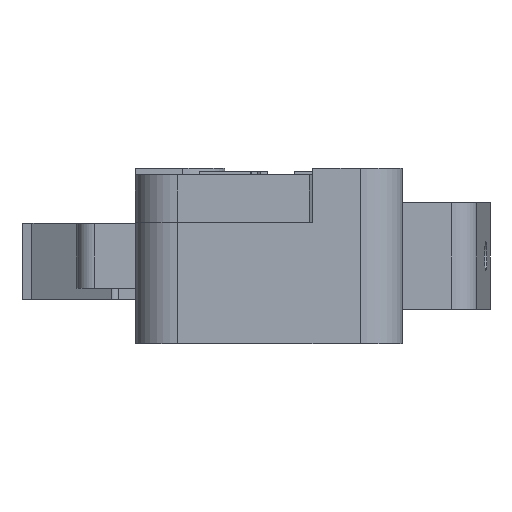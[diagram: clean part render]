
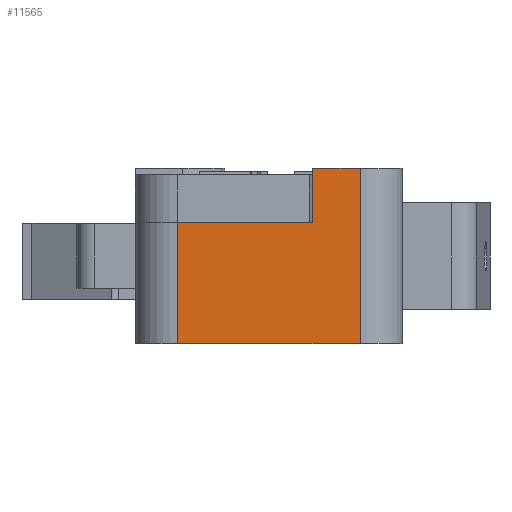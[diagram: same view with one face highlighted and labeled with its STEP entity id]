
A CAD part, left-side view. The second image highlights one B-rep face of the part: STEP entity #11565.
In plain terms, the highlighted planar face has unit normal (-1, 0, 0).
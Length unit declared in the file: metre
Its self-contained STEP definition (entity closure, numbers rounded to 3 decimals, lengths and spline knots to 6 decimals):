
#11108=CARTESIAN_POINT('',(-0.027238,-0.017123,0.033313));
#11109=VERTEX_POINT('',#11108);
#11143=CARTESIAN_POINT('',(-0.027238,-0.014323,0.033313));
#11144=VERTEX_POINT('',#11143);
#11147=CARTESIAN_POINT('',(-0.027238,-0.014323,0.033313));
#11148=DIRECTION('',(0.,-1.,0.));
#11149=VECTOR('',#11148,1.);
#11150=LINE('',#11147,#11149);
#11151=EDGE_CURVE('',#11144,#11109,#11150,.T.);
#11203=CARTESIAN_POINT('',(-0.027238,-0.014323,0.030113));
#11204=VERTEX_POINT('',#11203);
#11207=CARTESIAN_POINT('',(-0.027238,-0.014323,0.033313));
#11208=DIRECTION('',(0.,0.,-1.));
#11209=VECTOR('',#11208,1.);
#11210=LINE('',#11207,#11209);
#11211=EDGE_CURVE('',#11144,#11204,#11210,.T.);
#11510=CARTESIAN_POINT('',(-0.027238,-0.017123,0.022913));
#11511=VERTEX_POINT('',#11510);
#11516=CARTESIAN_POINT('',(-0.027238,-0.017123,0.033313));
#11517=DIRECTION('',(0.,0.,-1.));
#11518=VECTOR('',#11517,1.);
#11519=LINE('',#11516,#11518);
#11520=EDGE_CURVE('',#11109,#11511,#11519,.T.);
#11533=CARTESIAN_POINT('',(-0.027238,-0.014323,0.033313));
#11534=DIRECTION('',(1.,0.,0.));
#11535=DIRECTION('',(0.,1.,0.));
#11536=AXIS2_PLACEMENT_3D('',#11533,#11534,#11535);
#11537=PLANE('',#11536);
#11538=CARTESIAN_POINT('',(-0.027238,-0.014323,0.022913));
#11539=DIRECTION('',(0.,-1.,0.));
#11540=VECTOR('',#11539,1.);
#11541=LINE('',#11538,#11540);
#11542=CARTESIAN_POINT('',(-0.027238,-0.006323,0.022913));
#11543=VERTEX_POINT('',#11542);
#11544=EDGE_CURVE('',#11543,#11511,#11541,.T.);
#11545=ORIENTED_EDGE('',*,*,#11544,.T.);
#11546=ORIENTED_EDGE('',*,*,#11520,.F.);
#11547=ORIENTED_EDGE('',*,*,#11151,.F.);
#11548=ORIENTED_EDGE('',*,*,#11211,.T.);
#11549=CARTESIAN_POINT('',(-0.027238,-0.011723,0.030113));
#11550=DIRECTION('',(0.,-1.,0.));
#11551=VECTOR('',#11550,1.);
#11552=LINE('',#11549,#11551);
#11553=CARTESIAN_POINT('',(-0.027238,-0.006323,0.030113));
#11554=VERTEX_POINT('',#11553);
#11555=EDGE_CURVE('',#11554,#11204,#11552,.T.);
#11556=ORIENTED_EDGE('',*,*,#11555,.F.);
#11557=CARTESIAN_POINT('',(-0.027238,-0.006323,0.030113));
#11558=DIRECTION('',(0.,0.,-1.));
#11559=VECTOR('',#11558,1.);
#11560=LINE('',#11557,#11559);
#11561=EDGE_CURVE('',#11554,#11543,#11560,.T.);
#11562=ORIENTED_EDGE('',*,*,#11561,.T.);
#11563=EDGE_LOOP('',(#11545,#11546,#11547,#11548,#11556,#11562));
#11564=FACE_BOUND('',#11563,.T.);
#11565=ADVANCED_FACE('',(#11564),#11537,.F.);
